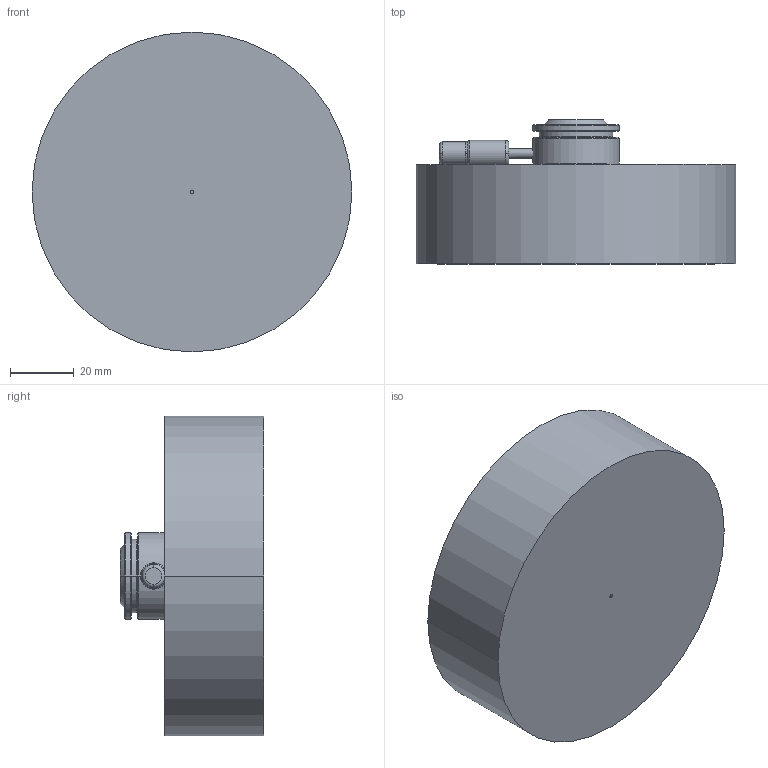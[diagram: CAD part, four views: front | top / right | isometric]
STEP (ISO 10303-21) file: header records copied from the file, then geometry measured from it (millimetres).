
FILE_DESCRIPTION((''),'2;1');
FILE_NAME('M27G102.stp','2020-09-17T12:48:26',(''),(''),'AutoCAD STEP 2000i','AutoCAD 2000i',', , ');
FILE_SCHEMA(('CONFIG_CONTROL_DESIGN'));
Length unit declared in the file: millimetre
Products named in the file (3): DRAWING1; NOZZLE M102G27; MOLD BODY 102G27
Assembly tree (2 placements, depth 2):
  DRAWING1
    NOZZLE M102G27
    MOLD BODY 102G27
Bounding box: 100 x 45 x 100 mm (x, y, z)
Volume: 249387.6 mm3; surface area: 31640.5 mm2
Topology: 2 solids, 2 shells, 114 faces, 272 edges, 172 vertices
Faces by surface type: cylinder 36, cone 34, bspline 16, plane 16, torus 12
Entity records: 4118 total; most frequent: CARTESIAN_POINT 1242, DIRECTION 665, ORIENTED_EDGE 540, AXIS2_PLACEMENT_3D 297, EDGE_CURVE 270, CIRCLE 196, VERTEX_POINT 172, EDGE_LOOP 128
